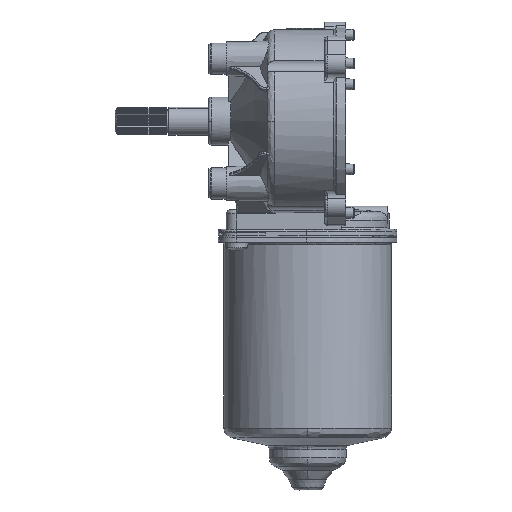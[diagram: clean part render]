
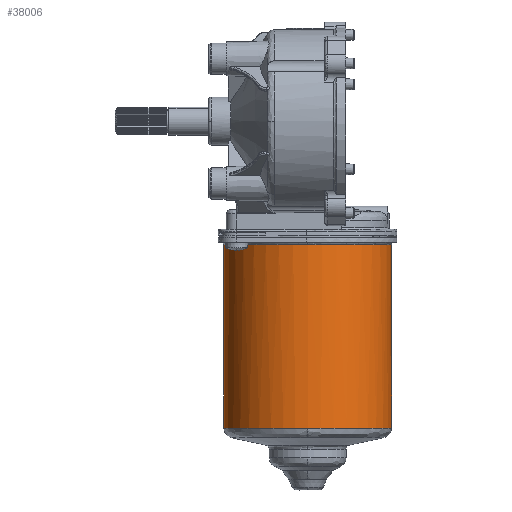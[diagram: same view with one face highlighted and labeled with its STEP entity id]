
A CAD part, front view. The second image highlights one B-rep face of the part: STEP entity #38006.
In plain terms, the highlighted cylindrical face has radius 29.599 mm (diameter 59.199 mm), a partial arc.
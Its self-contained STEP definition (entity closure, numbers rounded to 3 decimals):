
#351 = EDGE_CURVE ( 'NONE', #983, #4202, #8700, .T. ) ;
#16901 = ORIENTED_EDGE ( 'NONE', *, *, #351, .T. ) ;
#983 = VERTEX_POINT ( 'NONE', #9759 ) ;
#17548 = B_SPLINE_CURVE_WITH_KNOTS ( 'NONE', 3,
 ( #17549, #17550, #17551, #17552, #17593, #17594, #17595, #17596, #17597, #17598, #17599, #17600, #17601, #17602, #17603, #17604, #17605, #17606 ),
 .UNSPECIFIED., .F., .F.,
 ( 4, 2, 2, 2, 2, 2, 2, 2, 4 ),
 ( 0.5, 0.563, 0.625, 0.688, 0.75, 0.813, 0.875, 0.938, 1. ),
 .UNSPECIFIED. ) ;
#17549 = CARTESIAN_POINT ( 'NONE',  ( -4.6, 31.001, -108.318 ) ) ;
#17550 = CARTESIAN_POINT ( 'NONE',  ( -4.6, 29.063, -108.318 ) ) ;
#17551 = CARTESIAN_POINT ( 'NONE',  ( -4.41, 27.126, -108.318 ) ) ;
#17552 = CARTESIAN_POINT ( 'NONE',  ( -3.654, 23.326, -108.318 ) ) ;
#17593 = CARTESIAN_POINT ( 'NONE',  ( -3.089, 21.463, -108.318 ) ) ;
#17594 = CARTESIAN_POINT ( 'NONE',  ( -1.606, 17.884, -108.318 ) ) ;
#17595 = CARTESIAN_POINT ( 'NONE',  ( -0.688, 16.167, -108.318 ) ) ;
#17596 = CARTESIAN_POINT ( 'NONE',  ( 1.464, 12.945, -108.318 ) ) ;
#17597 = CARTESIAN_POINT ( 'NONE',  ( 2.699, 11.44, -108.318 ) ) ;
#17598 = CARTESIAN_POINT ( 'NONE',  ( 5.439, 8.701, -108.318 ) ) ;
#17599 = CARTESIAN_POINT ( 'NONE',  ( 6.944, 7.466, -108.318 ) ) ;
#17600 = CARTESIAN_POINT ( 'NONE',  ( 10.165, 5.313, -108.318 ) ) ;
#17601 = CARTESIAN_POINT ( 'NONE',  ( 11.882, 4.396, -108.318 ) ) ;
#17602 = CARTESIAN_POINT ( 'NONE',  ( 15.462, 2.913, -108.318 ) ) ;
#17603 = CARTESIAN_POINT ( 'NONE',  ( 17.325, 2.348, -108.318 ) ) ;
#17604 = CARTESIAN_POINT ( 'NONE',  ( 21.125, 1.592, -108.318 ) ) ;
#17605 = CARTESIAN_POINT ( 'NONE',  ( 23.062, 1.401, -108.318 ) ) ;
#17606 = CARTESIAN_POINT ( 'NONE',  ( 24.999, 1.401, -108.318 ) ) ;
#34430 = ORIENTED_EDGE ( 'NONE', *, *, #53267, .T. ) ;
#2593 = EDGE_CURVE ( 'NONE', #29587, #19358, #17548, .T. ) ;
#19358 = VERTEX_POINT ( 'NONE', #8327 ) ;
#36193 = B_SPLINE_CURVE_WITH_KNOTS ( 'NONE', 3,
 ( #36237, #36238, #36239, #36240, #36241, #36242, #36243, #36244, #36245, #36246, #36247, #36248, #36249, #36250, #36251, #36252, #36293, #36294 ),
 .UNSPECIFIED., .F., .F.,
 ( 4, 2, 2, 2, 2, 2, 2, 2, 4 ),
 ( 0., 0.062, 0.125, 0.187, 0.25, 0.313, 0.375, 0.437, 0.5 ),
 .UNSPECIFIED. ) ;
#36237 = CARTESIAN_POINT ( 'NONE',  ( 24.999, 1.401, -108.318 ) ) ;
#36238 = CARTESIAN_POINT ( 'NONE',  ( 26.936, 1.401, -108.318 ) ) ;
#36239 = CARTESIAN_POINT ( 'NONE',  ( 28.874, 1.592, -108.318 ) ) ;
#36240 = CARTESIAN_POINT ( 'NONE',  ( 32.674, 2.348, -108.318 ) ) ;
#36241 = CARTESIAN_POINT ( 'NONE',  ( 34.537, 2.913, -108.318 ) ) ;
#36242 = CARTESIAN_POINT ( 'NONE',  ( 38.116, 4.396, -108.318 ) ) ;
#36243 = CARTESIAN_POINT ( 'NONE',  ( 39.833, 5.313, -108.318 ) ) ;
#36244 = CARTESIAN_POINT ( 'NONE',  ( 43.055, 7.466, -108.318 ) ) ;
#36245 = CARTESIAN_POINT ( 'NONE',  ( 44.559, 8.701, -108.318 ) ) ;
#36246 = CARTESIAN_POINT ( 'NONE',  ( 47.299, 11.44, -108.318 ) ) ;
#36247 = CARTESIAN_POINT ( 'NONE',  ( 48.534, 12.945, -108.318 ) ) ;
#36248 = CARTESIAN_POINT ( 'NONE',  ( 50.687, 16.167, -108.318 ) ) ;
#36249 = CARTESIAN_POINT ( 'NONE',  ( 51.604, 17.884, -108.318 ) ) ;
#36250 = CARTESIAN_POINT ( 'NONE',  ( 53.087, 21.463, -108.318 ) ) ;
#36251 = CARTESIAN_POINT ( 'NONE',  ( 53.652, 23.326, -108.318 ) ) ;
#36252 = CARTESIAN_POINT ( 'NONE',  ( 54.408, 27.126, -108.318 ) ) ;
#36293 = CARTESIAN_POINT ( 'NONE',  ( 54.599, 29.063, -108.318 ) ) ;
#36294 = CARTESIAN_POINT ( 'NONE',  ( 54.599, 31.001, -108.318 ) ) ;
#53267 = EDGE_CURVE ( 'NONE', #25817, #5141, #43388, .T. ) ;
#4202 = VERTEX_POINT ( 'NONE', #23010 ) ;
#4292 = EDGE_CURVE ( 'NONE', #29587, #4202, #23821, .T. ) ;
#21207 = CARTESIAN_POINT ( 'NONE',  ( 54.599, 31.001, -108.318 ) ) ;
#5141 = VERTEX_POINT ( 'NONE', #26389 ) ;
#37968 = CARTESIAN_POINT ( 'NONE',  ( -4.6, 31.001, -108.318 ) ) ;
#38006 = ADVANCED_FACE ( 'NONE', ( #55194 ), #55195, .T. ) ;
#55002 = EDGE_LOOP ( 'NONE', ( #41498, #25589, #48011, #34430, #43735, #16901 ) ) ;
#55194 = FACE_OUTER_BOUND ( 'NONE', #55002, .T. ) ;
#55195 = CYLINDRICAL_SURFACE ( 'NONE', #55196, 29.599 ) ;
#55196 = AXIS2_PLACEMENT_3D ( 'NONE', #55197, #55198, #55199 ) ;
#55197 = CARTESIAN_POINT ( 'NONE',  ( 24.999, 31.001, -108.318 ) ) ;
#55198 = DIRECTION ( 'NONE',  ( 0., 0., 1. ) ) ;
#55199 = DIRECTION ( 'NONE',  ( 1., 0., 0. ) ) ;
#23010 = CARTESIAN_POINT ( 'NONE',  ( -4.6, 31.001, -43.7 ) ) ;
#23821 = LINE ( 'NONE', #23822, #23823 ) ;
#23822 = CARTESIAN_POINT ( 'NONE',  ( -4.6, 31.001, -108.318 ) ) ;
#23823 = VECTOR ( 'NONE', #23824, 1000. ) ;
#23824 = DIRECTION ( 'NONE',  ( 0., 0., 1. ) ) ;
#8327 = CARTESIAN_POINT ( 'NONE',  ( 24.999, 1.401, -108.318 ) ) ;
#8700 = CIRCLE ( 'NONE', #8701, 29.599 ) ;
#8701 = AXIS2_PLACEMENT_3D ( 'NONE', #8702, #8703, #8704 ) ;
#8702 = CARTESIAN_POINT ( 'NONE',  ( 24.999, 31.001, -43.7 ) ) ;
#8703 = DIRECTION ( 'NONE',  ( 0., 0., -1. ) ) ;
#8704 = DIRECTION ( 'NONE',  ( 0., -1., 0. ) ) ;
#41498 = ORIENTED_EDGE ( 'NONE', *, *, #4292, .F. ) ;
#8972 = EDGE_CURVE ( 'NONE', #19358, #25817, #36193, .T. ) ;
#25589 = ORIENTED_EDGE ( 'NONE', *, *, #2593, .T. ) ;
#25817 = VERTEX_POINT ( 'NONE', #21207 ) ;
#9759 = CARTESIAN_POINT ( 'NONE',  ( 24.999, 1.401, -43.7 ) ) ;
#26389 = CARTESIAN_POINT ( 'NONE',  ( 54.599, 31.001, -43.7 ) ) ;
#43388 = LINE ( 'NONE', #43389, #43390 ) ;
#43389 = CARTESIAN_POINT ( 'NONE',  ( 54.599, 31.001, -108.318 ) ) ;
#43390 = VECTOR ( 'NONE', #43391, 1000. ) ;
#43391 = DIRECTION ( 'NONE',  ( 0., 0., 1. ) ) ;
#43735 = ORIENTED_EDGE ( 'NONE', *, *, #44651, .T. ) ;
#11147 = CIRCLE ( 'NONE', #11148, 29.599 ) ;
#11148 = AXIS2_PLACEMENT_3D ( 'NONE', #11149, #11150, #11151 ) ;
#11149 = CARTESIAN_POINT ( 'NONE',  ( 24.999, 31.001, -43.7 ) ) ;
#11150 = DIRECTION ( 'NONE',  ( 0., 0., -1. ) ) ;
#11151 = DIRECTION ( 'NONE',  ( 0., -1., 0. ) ) ;
#44651 = EDGE_CURVE ( 'NONE', #5141, #983, #11147, .T. ) ;
#29587 = VERTEX_POINT ( 'NONE', #37968 ) ;
#48011 = ORIENTED_EDGE ( 'NONE', *, *, #8972, .T. ) ;
